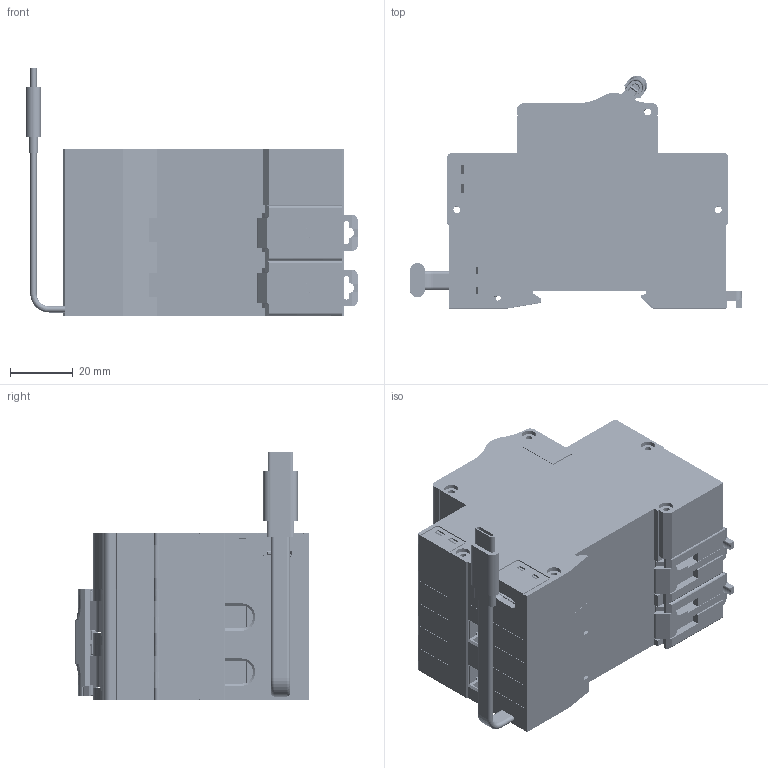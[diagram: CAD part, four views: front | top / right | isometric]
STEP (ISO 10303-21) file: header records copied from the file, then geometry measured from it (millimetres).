
FILE_DESCRIPTION (( 'STEP AP214' ), '1' );
FILE_NAME ('NDB5E-80 2P.step', '2023-12-13T05:32:41', ( '' ), ( '' ), 'SwSTEP 2.0', 'SolidWorks 2018', '' );
FILE_SCHEMA (( 'AUTOMOTIVE_DESIGN' ));
Length unit declared in the file: millimetre
Products named in the file (1): NDB5E-80 2P
Bounding box: 106.04 x 74.42 x 79 mm (x, y, z)
Surface area: 206687.1 mm2 (no closed solid volume)
Topology: 0 solids, 60 shells, 13077 faces, 36734 edges, 24247 vertices
Faces by surface type: plane 8423, cylinder 2858, bspline 929, cone 682, torus 185
Entity records: 744773 total; most frequent: CARTESIAN_POINT 269236, ORIENTED_EDGE 73382, DIRECTION 62530, EDGE_CURVE 36732, LINE 25776, VECTOR 25776, VERTEX_POINT 24247, AXIS2_PLACEMENT_3D 18377
